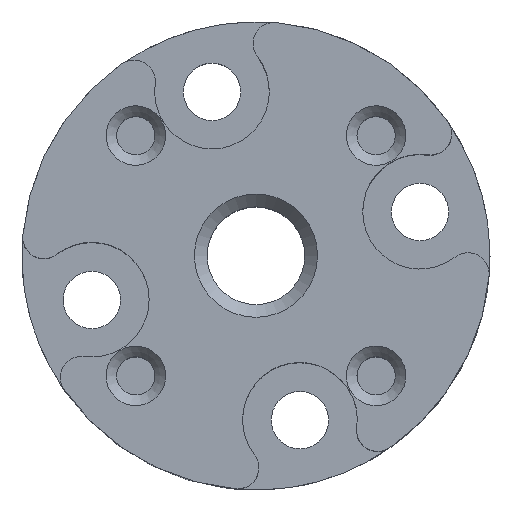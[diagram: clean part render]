
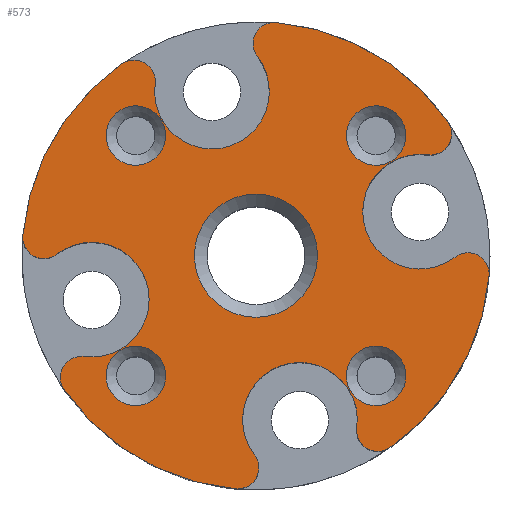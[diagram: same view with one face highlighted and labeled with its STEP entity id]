
A CAD part, top view. The second image highlights one B-rep face of the part: STEP entity #573.
In plain terms, the highlighted planar face has unit normal (0, 0, 1).
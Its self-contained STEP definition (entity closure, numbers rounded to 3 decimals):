
#39=PLANE('',#638);
#103=ORIENTED_EDGE('',*,*,#248,.F.);
#104=ORIENTED_EDGE('',*,*,#240,.T.);
#105=ORIENTED_EDGE('',*,*,#249,.F.);
#106=ORIENTED_EDGE('',*,*,#250,.F.);
#107=ORIENTED_EDGE('',*,*,#251,.F.);
#108=ORIENTED_EDGE('',*,*,#236,.T.);
#109=ORIENTED_EDGE('',*,*,#252,.F.);
#110=ORIENTED_EDGE('',*,*,#253,.F.);
#111=ORIENTED_EDGE('',*,*,#254,.F.);
#112=ORIENTED_EDGE('',*,*,#232,.T.);
#113=ORIENTED_EDGE('',*,*,#255,.F.);
#114=ORIENTED_EDGE('',*,*,#256,.F.);
#115=ORIENTED_EDGE('',*,*,#257,.F.);
#116=ORIENTED_EDGE('',*,*,#228,.T.);
#117=ORIENTED_EDGE('',*,*,#258,.F.);
#118=ORIENTED_EDGE('',*,*,#259,.F.);
#119=ORIENTED_EDGE('',*,*,#260,.F.);
#120=ORIENTED_EDGE('',*,*,#261,.T.);
#121=ORIENTED_EDGE('',*,*,#262,.T.);
#122=ORIENTED_EDGE('',*,*,#263,.T.);
#123=ORIENTED_EDGE('',*,*,#264,.T.);
#228=EDGE_CURVE('',#302,#301,#357,.T.);
#232=EDGE_CURVE('',#306,#305,#359,.T.);
#236=EDGE_CURVE('',#310,#309,#361,.T.);
#240=EDGE_CURVE('',#314,#313,#363,.T.);
#248=EDGE_CURVE('',#314,#321,#370,.T.);
#249=EDGE_CURVE('',#322,#313,#371,.T.);
#250=EDGE_CURVE('',#323,#322,#372,.T.);
#251=EDGE_CURVE('',#310,#323,#373,.T.);
#252=EDGE_CURVE('',#324,#309,#374,.T.);
#253=EDGE_CURVE('',#325,#324,#375,.T.);
#254=EDGE_CURVE('',#306,#325,#376,.T.);
#255=EDGE_CURVE('',#326,#305,#377,.T.);
#256=EDGE_CURVE('',#327,#326,#378,.T.);
#257=EDGE_CURVE('',#302,#327,#379,.T.);
#258=EDGE_CURVE('',#328,#301,#380,.T.);
#259=EDGE_CURVE('',#321,#328,#381,.T.);
#260=EDGE_CURVE('',#329,#329,#382,.T.);
#261=EDGE_CURVE('',#330,#330,#383,.F.);
#262=EDGE_CURVE('',#331,#331,#384,.F.);
#263=EDGE_CURVE('',#332,#332,#385,.F.);
#264=EDGE_CURVE('',#333,#333,#386,.F.);
#301=VERTEX_POINT('',#931);
#302=VERTEX_POINT('',#933);
#305=VERTEX_POINT('',#939);
#306=VERTEX_POINT('',#941);
#309=VERTEX_POINT('',#947);
#310=VERTEX_POINT('',#949);
#313=VERTEX_POINT('',#955);
#314=VERTEX_POINT('',#957);
#321=VERTEX_POINT('',#974);
#322=VERTEX_POINT('',#976);
#323=VERTEX_POINT('',#978);
#324=VERTEX_POINT('',#981);
#325=VERTEX_POINT('',#983);
#326=VERTEX_POINT('',#986);
#327=VERTEX_POINT('',#988);
#328=VERTEX_POINT('',#991);
#329=VERTEX_POINT('',#994);
#330=VERTEX_POINT('',#996);
#331=VERTEX_POINT('',#998);
#332=VERTEX_POINT('',#1000);
#333=VERTEX_POINT('',#1002);
#357=CIRCLE('',#624,11.02);
#359=CIRCLE('',#626,11.02);
#361=CIRCLE('',#628,11.02);
#363=CIRCLE('',#630,11.02);
#370=CIRCLE('',#639,1.);
#371=CIRCLE('',#640,1.);
#372=CIRCLE('',#641,2.7);
#373=CIRCLE('',#642,1.);
#374=CIRCLE('',#643,1.);
#375=CIRCLE('',#644,2.7);
#376=CIRCLE('',#645,1.);
#377=CIRCLE('',#646,1.);
#378=CIRCLE('',#647,2.7);
#379=CIRCLE('',#648,1.);
#380=CIRCLE('',#649,1.);
#381=CIRCLE('',#650,2.7);
#382=CIRCLE('',#651,2.9);
#383=CIRCLE('',#652,1.4);
#384=CIRCLE('',#653,1.4);
#385=CIRCLE('',#654,1.4);
#386=CIRCLE('',#655,1.4);
#421=EDGE_LOOP('',(#103,#104,#105,#106,#107,#108,#109,#110,#111,#112,#113,
#114,#115,#116,#117,#118));
#422=EDGE_LOOP('',(#119));
#423=EDGE_LOOP('',(#120));
#424=EDGE_LOOP('',(#121));
#425=EDGE_LOOP('',(#122));
#426=EDGE_LOOP('',(#123));
#489=FACE_BOUND('',#421,.T.);
#490=FACE_BOUND('',#422,.T.);
#491=FACE_BOUND('',#423,.T.);
#492=FACE_BOUND('',#424,.T.);
#493=FACE_BOUND('',#425,.T.);
#494=FACE_BOUND('',#426,.T.);
#573=ADVANCED_FACE('',(#489,#490,#491,#492,#493,#494),#39,.T.);
#624=AXIS2_PLACEMENT_3D('',#932,#724,#725);
#626=AXIS2_PLACEMENT_3D('',#940,#730,#731);
#628=AXIS2_PLACEMENT_3D('',#948,#736,#737);
#630=AXIS2_PLACEMENT_3D('',#956,#742,#743);
#638=AXIS2_PLACEMENT_3D('',#972,#759,#760);
#639=AXIS2_PLACEMENT_3D('',#973,#761,#762);
#640=AXIS2_PLACEMENT_3D('',#975,#763,#764);
#641=AXIS2_PLACEMENT_3D('',#977,#765,#766);
#642=AXIS2_PLACEMENT_3D('',#979,#767,#768);
#643=AXIS2_PLACEMENT_3D('',#980,#769,#770);
#644=AXIS2_PLACEMENT_3D('',#982,#771,#772);
#645=AXIS2_PLACEMENT_3D('',#984,#773,#774);
#646=AXIS2_PLACEMENT_3D('',#985,#775,#776);
#647=AXIS2_PLACEMENT_3D('',#987,#777,#778);
#648=AXIS2_PLACEMENT_3D('',#989,#779,#780);
#649=AXIS2_PLACEMENT_3D('',#990,#781,#782);
#650=AXIS2_PLACEMENT_3D('',#992,#783,#784);
#651=AXIS2_PLACEMENT_3D('',#993,#785,#786);
#652=AXIS2_PLACEMENT_3D('',#995,#787,#788);
#653=AXIS2_PLACEMENT_3D('',#997,#789,#790);
#654=AXIS2_PLACEMENT_3D('',#999,#791,#792);
#655=AXIS2_PLACEMENT_3D('',#1001,#793,#794);
#724=DIRECTION('',(0.,0.,1.));
#725=DIRECTION('',(1.,0.,0.));
#730=DIRECTION('',(0.,0.,1.));
#731=DIRECTION('',(1.,0.,0.));
#736=DIRECTION('',(0.,0.,1.));
#737=DIRECTION('',(1.,0.,0.));
#742=DIRECTION('',(0.,0.,1.));
#743=DIRECTION('',(1.,0.,0.));
#759=DIRECTION('',(0.,0.,1.));
#760=DIRECTION('',(0.,-1.,0.));
#761=DIRECTION('',(0.,0.,-1.));
#762=DIRECTION('',(1.,0.,0.));
#763=DIRECTION('',(0.,0.,-1.));
#764=DIRECTION('',(0.,1.,0.));
#765=DIRECTION('',(0.,0.,1.));
#766=DIRECTION('',(1.,0.,0.));
#767=DIRECTION('',(0.,0.,-1.));
#768=DIRECTION('',(0.,1.,0.));
#769=DIRECTION('',(0.,0.,-1.));
#770=DIRECTION('',(-1.,0.,0.));
#771=DIRECTION('',(0.,0.,1.));
#772=DIRECTION('',(1.,0.,0.));
#773=DIRECTION('',(0.,0.,-1.));
#774=DIRECTION('',(-1.,0.,0.));
#775=DIRECTION('',(0.,0.,-1.));
#776=DIRECTION('',(0.,-1.,0.));
#777=DIRECTION('',(0.,0.,1.));
#778=DIRECTION('',(1.,0.,0.));
#779=DIRECTION('',(0.,0.,-1.));
#780=DIRECTION('',(0.,-1.,0.));
#781=DIRECTION('',(0.,0.,-1.));
#782=DIRECTION('',(1.,0.,0.));
#783=DIRECTION('',(0.,0.,1.));
#784=DIRECTION('',(1.,0.,0.));
#785=DIRECTION('',(0.,0.,1.));
#786=DIRECTION('',(1.,0.,0.));
#787=DIRECTION('',(0.,0.,1.));
#788=DIRECTION('',(1.,0.,0.));
#789=DIRECTION('',(0.,0.,1.));
#790=DIRECTION('',(1.,0.,0.));
#791=DIRECTION('',(0.,0.,1.));
#792=DIRECTION('',(1.,0.,0.));
#793=DIRECTION('',(0.,0.,1.));
#794=DIRECTION('',(1.,0.,0.));
#931=CARTESIAN_POINT('',(10.979,-0.949,-17.498));
#932=CARTESIAN_POINT('',(0.,0.,-17.498));
#933=CARTESIAN_POINT('',(6.311,-9.034,-17.498));
#939=CARTESIAN_POINT('',(-0.949,-10.979,-17.498));
#940=CARTESIAN_POINT('',(0.,0.,-17.498));
#941=CARTESIAN_POINT('',(-9.034,-6.311,-17.498));
#947=CARTESIAN_POINT('',(-10.979,0.949,-17.498));
#948=CARTESIAN_POINT('',(0.,0.,-17.498));
#949=CARTESIAN_POINT('',(-6.311,9.034,-17.498));
#955=CARTESIAN_POINT('',(0.949,10.979,-17.498));
#956=CARTESIAN_POINT('',(0.,0.,-17.498));
#957=CARTESIAN_POINT('',(9.034,6.311,-17.498));
#972=CARTESIAN_POINT('',(-11.01,11.01,-17.498));
#973=CARTESIAN_POINT('',(8.214,5.738,-17.498));
#974=CARTESIAN_POINT('',(8.083,4.747,-17.498));
#975=CARTESIAN_POINT('',(0.863,9.983,-17.498));
#976=CARTESIAN_POINT('',(0.07,9.373,-17.498));
#977=CARTESIAN_POINT('',(-2.071,7.727,-17.498));
#978=CARTESIAN_POINT('',(-4.747,8.083,-17.498));
#979=CARTESIAN_POINT('',(-5.738,8.214,-17.498));
#980=CARTESIAN_POINT('',(-9.983,0.863,-17.498));
#981=CARTESIAN_POINT('',(-9.373,0.07,-17.498));
#982=CARTESIAN_POINT('',(-7.727,-2.071,-17.498));
#983=CARTESIAN_POINT('',(-8.083,-4.747,-17.498));
#984=CARTESIAN_POINT('',(-8.214,-5.738,-17.498));
#985=CARTESIAN_POINT('',(-0.863,-9.983,-17.498));
#986=CARTESIAN_POINT('',(-0.07,-9.373,-17.498));
#987=CARTESIAN_POINT('',(2.071,-7.727,-17.498));
#988=CARTESIAN_POINT('',(4.747,-8.083,-17.498));
#989=CARTESIAN_POINT('',(5.738,-8.214,-17.498));
#990=CARTESIAN_POINT('',(9.983,-0.863,-17.498));
#991=CARTESIAN_POINT('',(9.373,-0.07,-17.498));
#992=CARTESIAN_POINT('',(7.727,2.071,-17.498));
#993=CARTESIAN_POINT('',(0.,0.,-17.498));
#994=CARTESIAN_POINT('',(2.9,0.,-17.498));
#995=CARTESIAN_POINT('',(-5.657,-5.657,-17.498));
#996=CARTESIAN_POINT('',(-4.257,-5.657,-17.498));
#997=CARTESIAN_POINT('',(5.657,-5.657,-17.498));
#998=CARTESIAN_POINT('',(7.057,-5.657,-17.498));
#999=CARTESIAN_POINT('',(5.657,5.657,-17.498));
#1000=CARTESIAN_POINT('',(7.057,5.657,-17.498));
#1001=CARTESIAN_POINT('',(-5.657,5.657,-17.498));
#1002=CARTESIAN_POINT('',(-4.257,5.657,-17.498));
